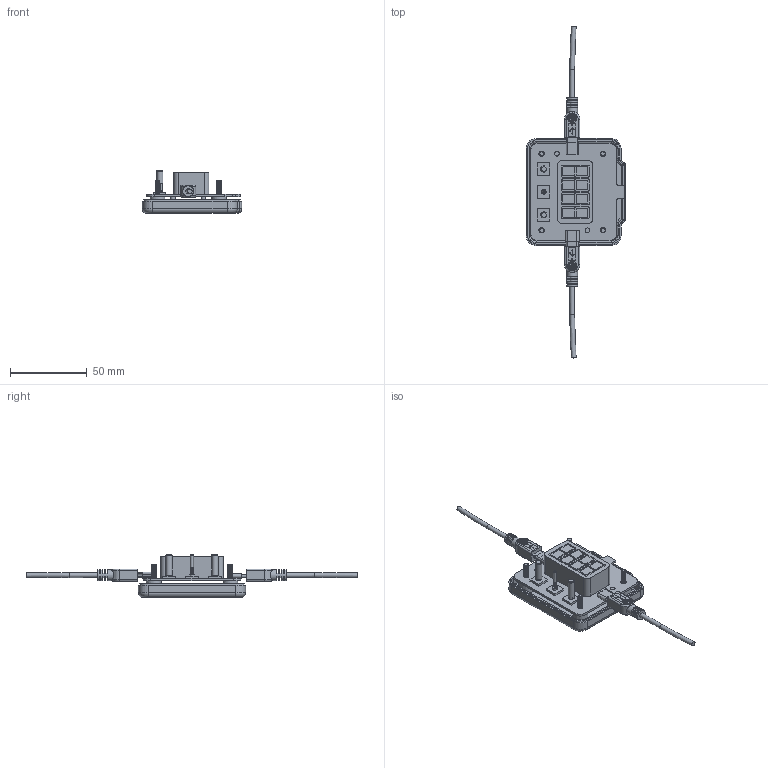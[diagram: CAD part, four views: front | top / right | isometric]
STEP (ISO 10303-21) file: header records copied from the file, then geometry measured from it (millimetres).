
FILE_DESCRIPTION(/* description */ (''),/* implementation_level */ '2;1');
FILE_NAME(/* name */ '4.stp',/* time_stamp */ '2017-05-18T00:50:35+08:00',/* author */ (''),/* organization */ (''),/* preprocessor_version */ 'ST-DEVELOPER v15',/* originating_system */ 'SIEMENS PLM Software NX 8.5',/* authorisation */ '');
FILE_SCHEMA (('AUTOMOTIVE_DESIGN { 1 0 10303 214 3 1 1 1 }'));
Products named in the file (1): Admi1DBCDAC23vo7
Bounding box: 65 x 217 x 28 mm (x, y, z)
Volume: 36353.6 mm3; surface area: 30146.7 mm2
Topology: 13 solids, 13 shells, 871 faces, 2186 edges, 1437 vertices
Faces by surface type: plane 596, cylinder 214, bspline 25, torus 24, cone 8, sphere 4
Full cylindrical faces by diameter (mm): 2 x1, 3 x15, 3.5 x4, 4 x2, 6.6 x4, 7 x2
Entity records: 61347 total; most frequent: CARTESIAN_POINT 38828, DIRECTION 4248, ORIENTED_EDGE 4196, EDGE_CURVE 2098, LINE 1470, VECTOR 1470, VERTEX_POINT 1404, AXIS2_PLACEMENT_3D 1389
